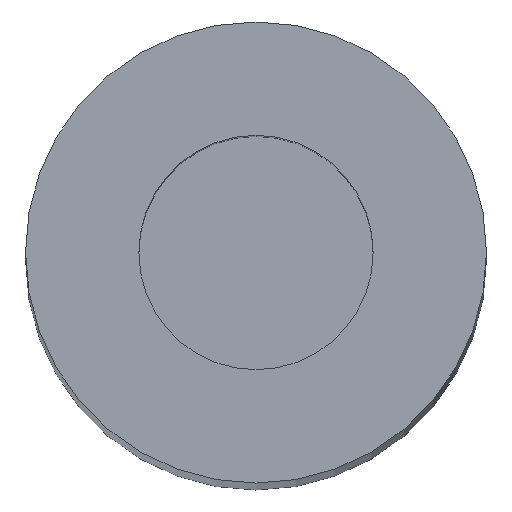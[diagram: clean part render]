
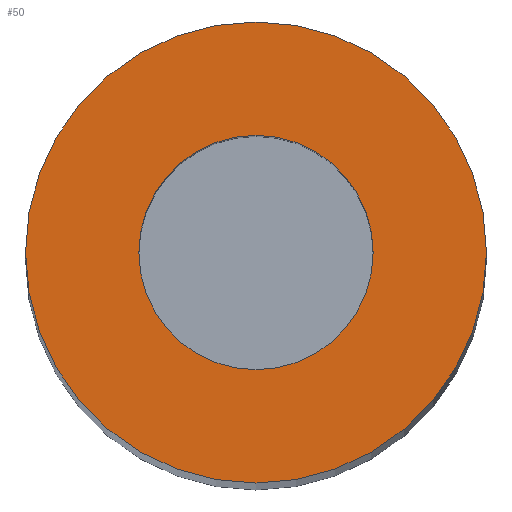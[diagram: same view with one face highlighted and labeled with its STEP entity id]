
A CAD part, top view. The second image highlights one B-rep face of the part: STEP entity #50.
In plain terms, the highlighted planar face has unit normal (0, 0, 1).
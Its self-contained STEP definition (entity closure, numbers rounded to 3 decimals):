
#21 = EDGE_CURVE('',#22,#22,#24,.T.);
#22 = VERTEX_POINT('',#23);
#23 = CARTESIAN_POINT('',(41.,0.,52.));
#24 = CIRCLE('',#25,3.);
#25 = AXIS2_PLACEMENT_3D('',#26,#27,#28);
#26 = CARTESIAN_POINT('',(38.,0.,52.));
#27 = DIRECTION('',(0.,0.,1.));
#28 = DIRECTION('',(1.,0.,0.));
#50 = ADVANCED_FACE('',(#51,#54),#65,.T.);
#51 = FACE_BOUND('',#52,.T.);
#52 = EDGE_LOOP('',(#53));
#53 = ORIENTED_EDGE('',*,*,#21,.T.);
#54 = FACE_BOUND('',#55,.T.);
#55 = EDGE_LOOP('',(#56));
#56 = ORIENTED_EDGE('',*,*,#57,.T.);
#57 = EDGE_CURVE('',#58,#58,#60,.T.);
#58 = VERTEX_POINT('',#59);
#59 = CARTESIAN_POINT('',(36.475,0.,52.));
#60 = CIRCLE('',#61,1.525);
#61 = AXIS2_PLACEMENT_3D('',#62,#63,#64);
#62 = CARTESIAN_POINT('',(38.,0.,52.));
#63 = DIRECTION('',(0.,0.,-1.));
#64 = DIRECTION('',(-1.,0.,0.));
#65 = PLANE('',#66);
#66 = AXIS2_PLACEMENT_3D('',#67,#68,#69);
#67 = CARTESIAN_POINT('',(38.,0.,52.));
#68 = DIRECTION('',(0.,0.,1.));
#69 = DIRECTION('',(1.,0.,0.));
